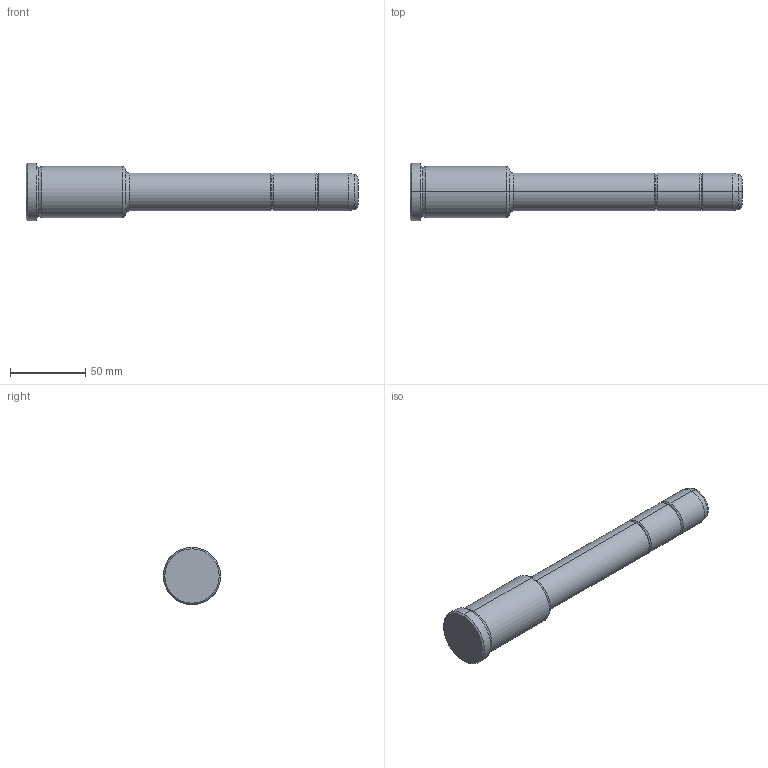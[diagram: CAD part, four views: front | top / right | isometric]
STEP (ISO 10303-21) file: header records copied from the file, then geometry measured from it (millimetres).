
FILE_DESCRIPTION(('CATIA V5 STEP Exchange'),'2;1');
FILE_NAME('C:\Users\Utente\Desktop\IO LAVORO\3D X SITO CF\X SITO\PLASTICA\351\351-25X66X220.stp','2021-09-07T10:05:44+00:00',('none'),('none'),'CATIA Version 5 Release 20 GA (IN-10)','CATIA V5 STEP AP203','none');
FILE_SCHEMA(('CONFIG_CONTROL_DESIGN'));
Length unit declared in the file: millimetre
Products named in the file (1): 351-25X66X220
Bounding box: 220 x 38 x 38 mm (x, y, z)
Volume: 136311.6 mm3; surface area: 21191.1 mm2
Topology: 1 solids, 1 shells, 36 faces, 102 edges, 70 vertices
Faces by surface type: torus 16, cylinder 10, cone 6, plane 4
Entity records: 1292 total; most frequent: CARTESIAN_POINT 321, ORIENTED_EDGE 204, DIRECTION 166, AXIS2_PLACEMENT_3D 115, EDGE_CURVE 102, CIRCLE 78, VERTEX_POINT 70, EDGE_LOOP 38
